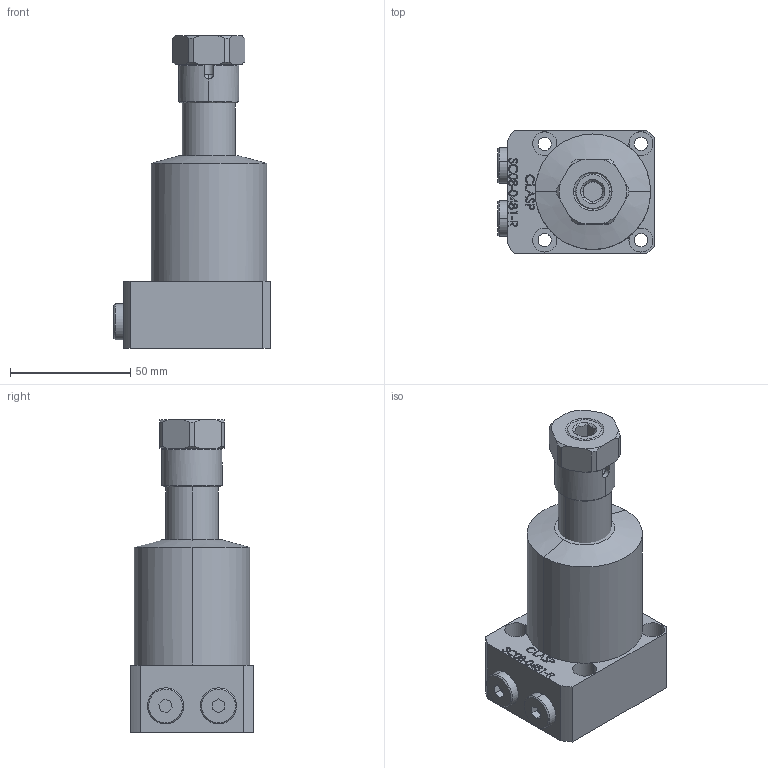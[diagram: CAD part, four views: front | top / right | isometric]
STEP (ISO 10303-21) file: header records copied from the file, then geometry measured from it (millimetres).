
FILE_DESCRIPTION (( 'STEP AP203' ), '1' );
FILE_NAME ('SC08-0481-R.STEP', '2022-07-08T17:17:24', ( '' ), ( '' ), 'SwSTEP 2.0', 'SolidWorks 2017', '' );
FILE_SCHEMA (( 'CONFIG_CONTROL_DESIGN' ));
Length unit declared in the file: millimetre
Products named in the file (6): SC-08-0481-R BODY; SC-08-0481-R-Piston; SC-08-0481-R-05 plug; SC-08-0481-R-04 sleeve; SC-08-0481-R-03-nut; SC08-0481-R
Assembly tree (6 placements, depth 2):
  SC08-0481-R
    SC-08-0481-R BODY
    SC-08-0481-R-Piston
    SC-08-0481-R-05 plug  x2
    SC-08-0481-R-04 sleeve
    SC-08-0481-R-03-nut
Bounding box: 65 x 51 x 130 mm (x, y, z)
Volume: 206487.9 mm3; surface area: 36134 mm2
Topology: 6 solids, 6 shells, 386 faces, 963 edges, 629 vertices
Faces by surface type: plane 170, bspline 111, cylinder 62, cone 41, sphere 2
Entity records: 18159 total; most frequent: CARTESIAN_POINT 9275, ORIENTED_EDGE 1862, DIRECTION 1381, EDGE_CURVE 931, VERTEX_POINT 609, VECTOR 483, LINE 483, AXIS2_PLACEMENT_3D 449
